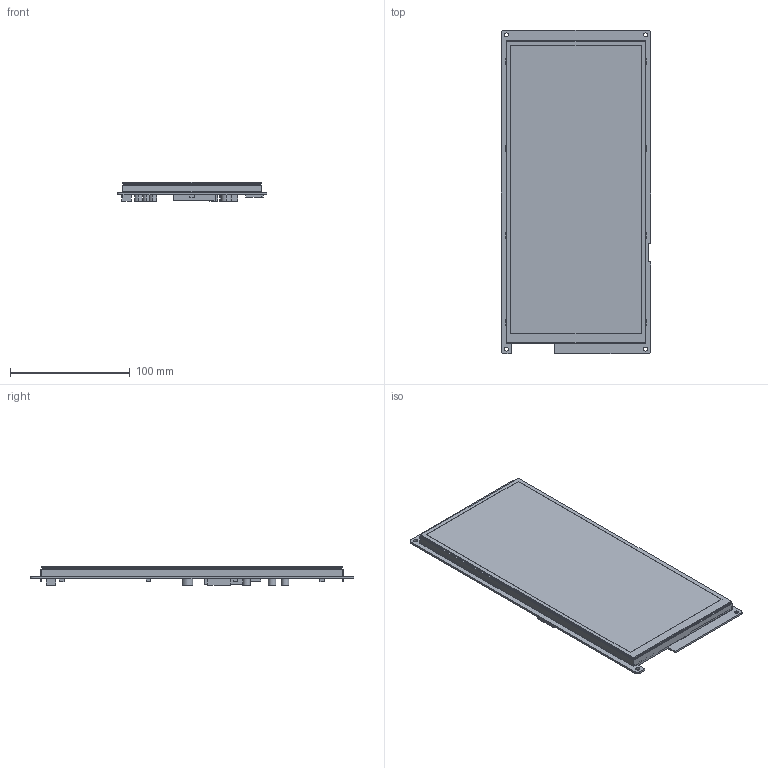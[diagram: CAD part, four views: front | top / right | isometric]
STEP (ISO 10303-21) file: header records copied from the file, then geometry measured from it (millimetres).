
FILE_DESCRIPTION((''),'2;1');
FILE_NAME('DMG16720C104-03WTC','2021-12-23T',('Administrator'),(''),'PRO/ENGINEER BY PARAMETRIC TECHNOLOGY CORPORATION, 2011310','PRO/ENGINEER BY PARAMETRIC TECHNOLOGY CORPORATION, 2011310','');
FILE_SCHEMA(('CONFIG_CONTROL_DESIGN','SHAPE_APPEARANCE_LAYERS_GROUPS'));
Length unit declared in the file: millimetre
Products named in the file (1): DMG16720C104-03WTC
Bounding box: 125 x 270 x 15.97 mm (x, y, z)
Volume: 247693.9 mm3; surface area: 196984 mm2
Topology: 1 solids, 2 shells, 241 faces, 698 edges, 452 vertices
Faces by surface type: plane 219, cylinder 22
Entity records: 9502 total; most frequent: ORIENTED_EDGE 1396, CARTESIAN_POINT 1391, DIRECTION 1224, EDGE_CURVE 698, VECTOR 654, LINE 654, VERTEX_POINT 452, AXIS2_PLACEMENT_3D 285
